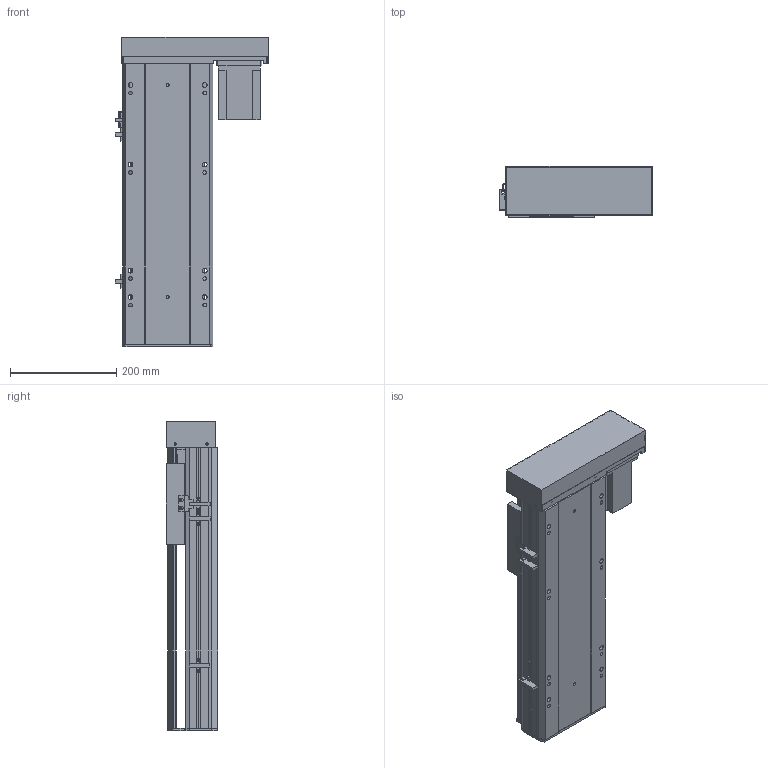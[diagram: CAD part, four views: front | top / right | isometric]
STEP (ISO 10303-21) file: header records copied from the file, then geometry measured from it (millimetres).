
FILE_DESCRIPTION (( 'STEP AP203' ), '1' );
FILE_NAME ('Y170-D10-S300-BR-P750W.STEP', '2020-01-21T12:06:01', ( '微软用户' ), ( '微软中国' ), 'SwSTEP 2.0', 'SolidWorks 2017', '' );
FILE_SCHEMA (( 'CONFIG_CONTROL_DESIGN' ));
Length unit declared in the file: millimetre
Products named in the file (12): Y-BL.BR-俋欶; Y--BL蟀諉啣-陔遴-; Y170耜裔--準---; YD-Y100-135-新外置传感挡片(通用）; 170--掛极-BR; Y100-135俋离換覜ん; Y170-BL-P750W楊擘啣; Y170-D10-S300-BR-P750W; 侂狟750W; EGH20賑輸_蕼偞; Y雄赽釱-耜蚾; Y170-陔遴奻裔-BR
Assembly tree (14 placements, depth 2):
  Y170-D10-S300-BR-P750W
    Y170耜裔--準---
    170--掛极-BR
    Y170-BL-P750W楊擘啣
    侂狟750W
    EGH20賑輸_蕼偞  x2
    Y雄赽釱-耜蚾
    Y170-陔遴奻裔-BR
    Y-BL.BR-俋欶
    Y--BL蟀諉啣-陔遴-
    YD-Y100-135-新外置传感挡片(通用）
    Y100-135俋离換覜ん  x3
Bounding box: 289 x 97 x 583.5 mm (x, y, z)
Volume: 3477085.5 mm3; surface area: 1131333.7 mm2
Topology: 14 solids, 14 shells, 897 faces, 2498 edges, 1648 vertices
Faces by surface type: plane 443, cylinder 438, cone 16
Entity records: 28010 total; most frequent: CARTESIAN_POINT 4846, DIRECTION 4668, ORIENTED_EDGE 4492, EDGE_CURVE 2246, AXIS2_PLACEMENT_3D 1650, VERTEX_POINT 1492, VECTOR 1368, LINE 1368
